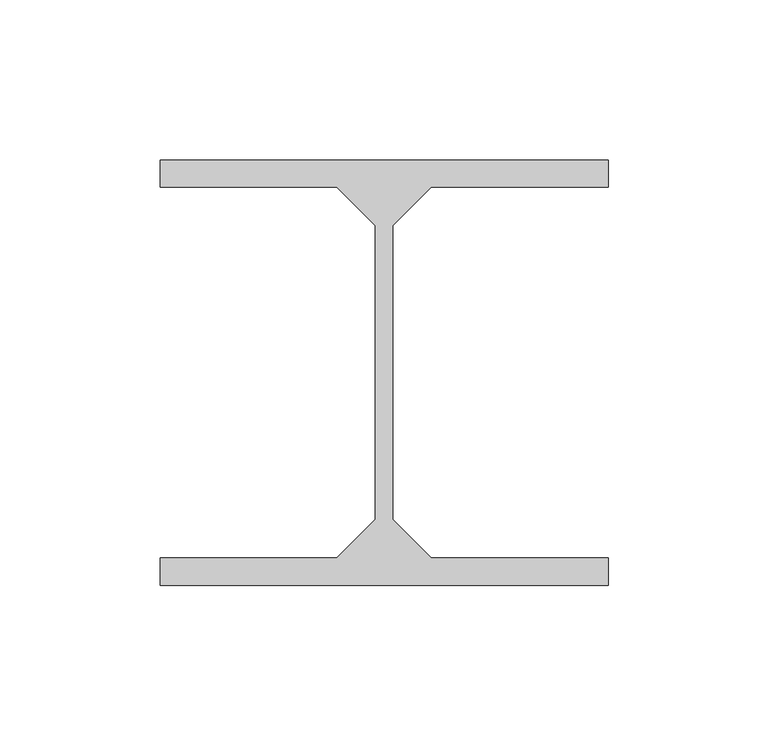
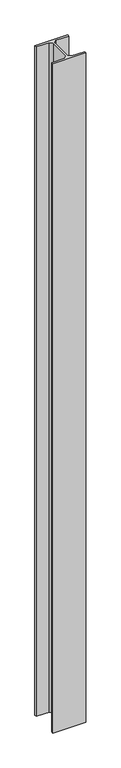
"""IFC4 building model written with IfcOpenShell, lengths in millimetres: beam geometry, Potelet 51002 : Potelet 51002."""

from ifc_helpers import new_model, si_unit, frame, origin, place, context, project, spatial, polyline, outline, extrude, source, transform, mapped, element, save


def beam_72802500(model_context):
    return source(origin(), model_context, "Body", "SweptSolid", [
        extrude(outline(polyline([(11427.4999999, -34342.0), (11427.4999999, -34333.5), (11567.4999999, -34333.5), (11567.4999999, -34342.0), (11512.2499999, -34342.0), (11500.2499999, -34354.0), (11500.2499999, -34446.0), (11512.2499999, -34458.0), (11567.4999999, -34458.0), (11567.4999999, -34466.5), (11427.4999999, -34466.5), (11427.4999999, -34458.0), (11482.7499999, -34458.0), (11494.7499999, -34446.0), (11494.7499999, -34354.0), (11482.7499999, -34342.0), (11427.4999999, -34342.0)])), frame((0.0, 0.0, 7410.0), z_axis=(0.0, 0.0, 1.0), x_axis=(1.0, 0.0, 0.0)), (0.0, 0.0, 1.0), 3012.6213054),
    ])


if __name__ == "__main__":
    model = new_model("IFC4")
    model_context = context("Model", 3, world=origin())
    ifc_project = project(units=[si_unit("LENGTHUNIT", "METRE", prefix="MILLI")], contexts=[model_context])
    site = spatial("IfcSite", under=ifc_project)
    building = spatial("IfcBuilding", under=site)
    placement = place(None, origin())
    beam_shape = beam_72802500(model_context)
    element("IfcBeam", 1, ObjectType="Potelet 51002 : Potelet 51002", at=placement, inside=building, context=model_context, shape_type="MappedRepresentation", body=[
        mapped(beam_shape, transform((0.0, 0.0, 0.0), x_axis=(1.0, 0.0, 0.0), y_axis=(0.0, 1.0, 0.0), z_axis=(0.0, 0.0, 1.0))),
    ])
    save(model, "model.ifc")
